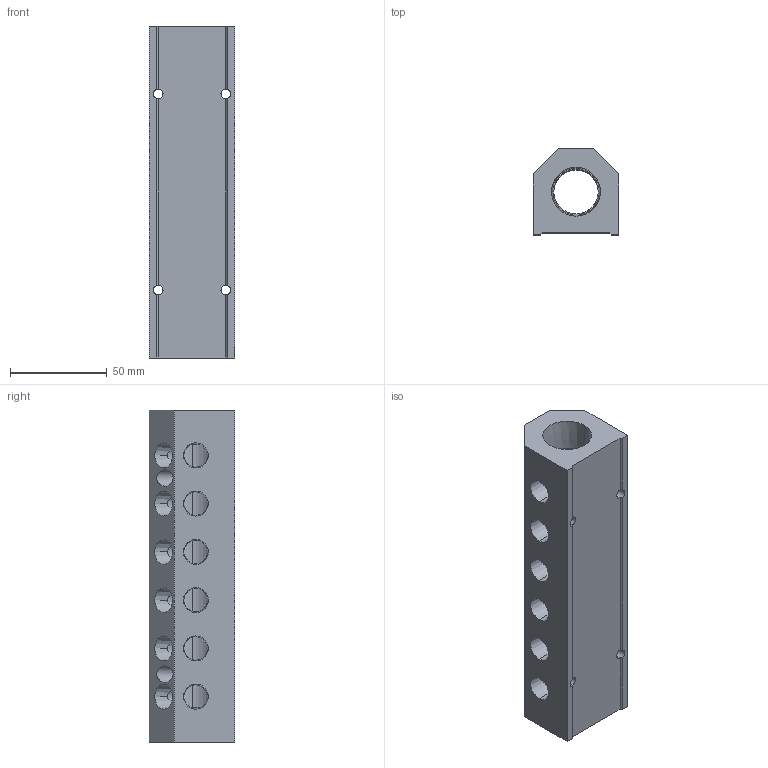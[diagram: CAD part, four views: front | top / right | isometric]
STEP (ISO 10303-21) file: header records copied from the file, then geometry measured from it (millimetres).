
FILE_DESCRIPTION (( 'STEP AP214' ), '1' );
FILE_NAME ('ALM6ABC-N4N12-172B.step', '2022-02-06T14:10:30', ( '' ), ( '' ), 'SwSTEP 2.0', 'SolidWorks 2020', '' );
FILE_SCHEMA (( 'AUTOMOTIVE_DESIGN' ));
Length unit declared in the file: millimetre
Products named in the file (1): ALM6ABC-N4N12-172B
Bounding box: 44.5 x 44.5 x 172 mm (x, y, z)
Volume: 203180.4 mm3; surface area: 49039.6 mm2
Topology: 1 solids, 1 shells, 345 faces, 971 edges, 644 vertices
Faces by surface type: plane 219, bspline 53, cone 47, cylinder 26
Entity records: 16373 total; most frequent: CARTESIAN_POINT 7430, ORIENTED_EDGE 1942, DIRECTION 1415, EDGE_CURVE 971, LINE 653, VECTOR 653, VERTEX_POINT 644, EDGE_LOOP 407
